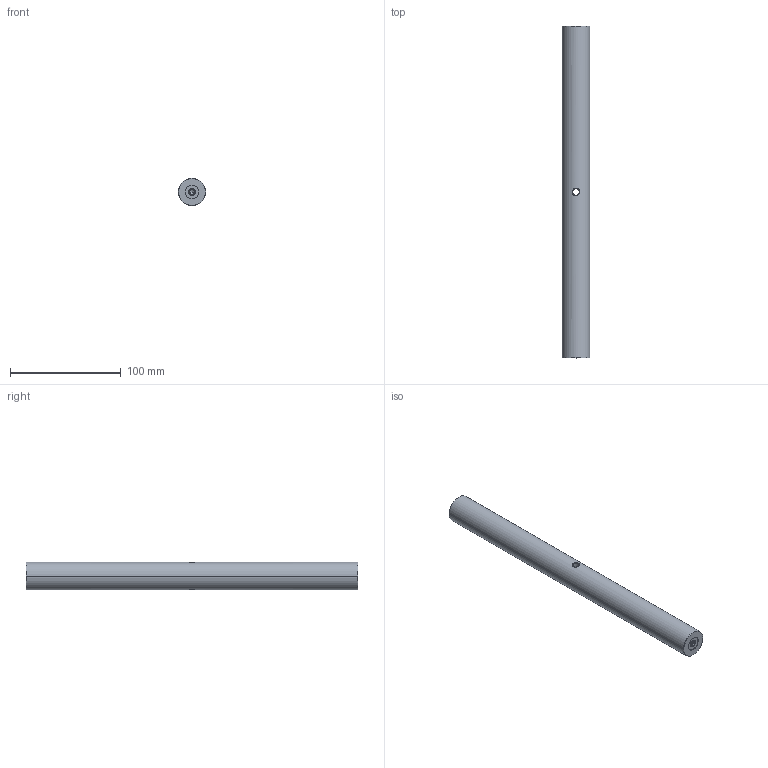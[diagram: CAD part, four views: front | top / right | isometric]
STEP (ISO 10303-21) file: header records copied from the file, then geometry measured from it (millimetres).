
FILE_DESCRIPTION((''),'2;1');
FILE_NAME('CFJP300-S','2020-10-30T',('Administrator'),(''),'CREO PARAMETRIC BY PTC INC, 2015290','CREO PARAMETRIC BY PTC INC, 2015290','');
FILE_SCHEMA(('CONFIG_CONTROL_DESIGN'));
Length unit declared in the file: millimetre
Products named in the file (1): CFJP300-S
Bounding box: 25 x 300 x 25 mm (x, y, z)
Volume: 145734.4 mm3; surface area: 25580.2 mm2
Topology: 1 solids, 1 shells, 96 faces, 252 edges, 158 vertices
Faces by surface type: cylinder 56, bspline 24, cone 12, plane 4
Entity records: 6314 total; most frequent: CARTESIAN_POINT 4242, ORIENTED_EDGE 496, DIRECTION 290, EDGE_CURVE 248, VERTEX_POINT 158, B_SPLINE_CURVE_WITH_KNOTS 130, EDGE_LOOP 102, AXIS2_PLACEMENT_3D 100
